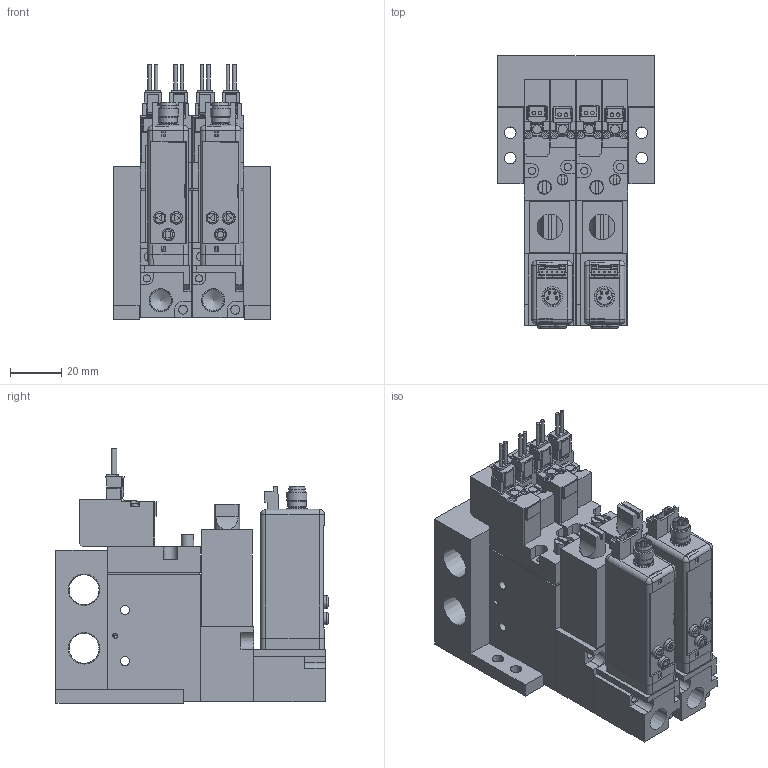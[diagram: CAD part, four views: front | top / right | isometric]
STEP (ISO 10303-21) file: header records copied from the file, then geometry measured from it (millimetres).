
FILE_DESCRIPTION(('STEP AP203'),'1');
FILE_NAME('BMPV32M2N20225AL202.stp','2025-06-16T08:52:03',(' '),(' '),'Spatial InterOp 3D',' ',' ');
FILE_SCHEMA(('CONFIG_CONTROL_DESIGN'));
Length unit declared in the file: millimetre
Products named in the file (28): BMPV32M2N20225AL202; MVS-202; ___-3(Rc); Filter Assy; __; _____; ___ ___; MB BRACKET; MB02; ___; upper plate-A; ______; ____; VACUUM VALVE FUNCTION MPV42-A; UV280-4E
Assembly tree (27 placements, depth 2):
  BMPV32M2N20225AL202
    MVS-202
    ___-3(Rc)
    Filter Assy
    __
    _____
    ___ ___
    MB BRACKET
    MB02
    MB BRACKET
    MVS-202
    ___-3(Rc)
    Filter Assy
    __
    _____
    ___ ___
    ___
    upper plate-A
    ______
    ____
    VACUUM VALVE FUNCTION MPV42-A
    ___
    upper plate-A
    ______
    ____
    VACUUM VALVE FUNCTION MPV42-A
    UV280-4E
    UV280-4E
Bounding box: 61.5 x 106.6 x 99.75 mm (x, y, z)
Volume: 274118.8 mm3; surface area: 97867.5 mm2
Topology: 27 solids, 35 shells, 1613 faces, 4124 edges, 2700 vertices
Faces by surface type: plane 1307, cylinder 252, cone 40, sphere 8, torus 6
Full cylindrical faces by diameter (mm): 1 x8, 1.4 x8, 1.5 x2, 1.8 x4, 2 x4, 2.5 x8, 2.8 x8, 3 x8, 3.5 x24, 4 x2, 4.2 x2, 4.5 x12, 4.8 x6, 5 x6, 5.5 x2, 5.8 x4, 6 x2, 6.5 x12, 7 x2, 7.2 x2, 7.9 x2, 8 x4, 8.2 x2, 8.759 x2, 11.776 x2
Entity records: 48654 total; most frequent: CARTESIAN_POINT 8467, ORIENTED_EDGE 7760, DIRECTION 7754, EDGE_CURVE 3880, LINE 3224, VECTOR 3224, VERTEX_POINT 2666, AXIS2_PLACEMENT_3D 2265
